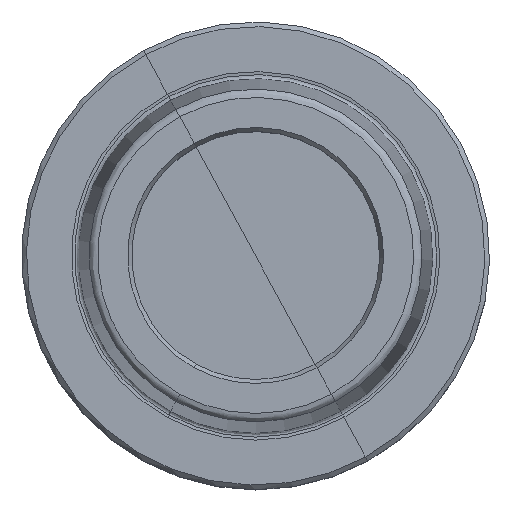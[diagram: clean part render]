
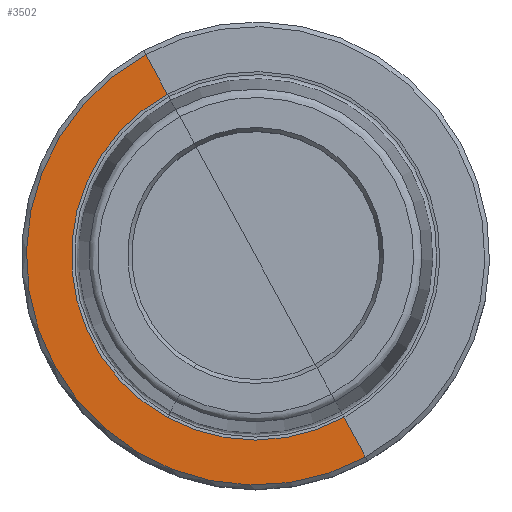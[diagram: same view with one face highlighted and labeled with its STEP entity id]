
A CAD part, top view. The second image highlights one B-rep face of the part: STEP entity #3502.
In plain terms, the highlighted planar face has unit normal (0, 0, 1).
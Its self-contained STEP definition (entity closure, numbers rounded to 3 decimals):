
#572=AXIS2_PLACEMENT_3D('Plane Axis2P3D',#569,#570,#571) ;
#2571=AXIS2_PLACEMENT_3D('Circle Axis2P3D',#2569,#2570,$) ;
#3479=AXIS2_PLACEMENT_3D('Circle Axis2P3D',#3477,#3478,$) ;
#3492=AXIS2_PLACEMENT_3D('Circle Axis2P3D',#3490,#3491,$) ;
#544=CARTESIAN_POINT('Vertex',(18.88,-34.56,0.)) ;
#551=CARTESIAN_POINT('Vertex',(-18.88,34.56,0.)) ;
#569=CARTESIAN_POINT('Axis2P3D Location',(0.,-38.285,0.)) ;
#574=CARTESIAN_POINT('Line Origine',(21.186,-38.781,0.)) ;
#578=CARTESIAN_POINT('Vertex',(23.492,-43.002,0.)) ;
#585=CARTESIAN_POINT('Vertex',(-23.492,43.002,0.)) ;
#588=CARTESIAN_POINT('Line Origine',(-21.186,38.781,0.)) ;
#2566=CARTESIAN_POINT('Vertex',(-18.88,-34.56,0.)) ;
#2569=CARTESIAN_POINT('Axis2P3D Location',(0.,0.,0.)) ;
#3477=CARTESIAN_POINT('Axis2P3D Location',(0.,0.,0.)) ;
#3490=CARTESIAN_POINT('Axis2P3D Location',(0.,0.,0.)) ;
#570=DIRECTION('Axis2P3D Direction',(0.,0.,-1.)) ;
#571=DIRECTION('Axis2P3D XDirection',(-1.,0.,0.)) ;
#575=DIRECTION('Vector Direction',(-0.479,0.878,0.)) ;
#589=DIRECTION('Vector Direction',(0.479,-0.878,0.)) ;
#2570=DIRECTION('Axis2P3D Direction',(0.,0.,1.)) ;
#3478=DIRECTION('Axis2P3D Direction',(0.,0.,1.)) ;
#3491=DIRECTION('Axis2P3D Direction',(0.,0.,-1.)) ;
#576=VECTOR('Line Direction',#575,1.) ;
#590=VECTOR('Line Direction',#589,1.) ;
#3496=ORIENTED_EDGE('',*,*,#3481,.T.) ;
#3497=ORIENTED_EDGE('',*,*,#580,.F.) ;
#3498=ORIENTED_EDGE('',*,*,#3494,.F.) ;
#3499=ORIENTED_EDGE('',*,*,#2573,.F.) ;
#3500=ORIENTED_EDGE('',*,*,#592,.T.) ;
#3502=ADVANCED_FACE('NOCUT',(#3501),#573,.F.) ;
#2572=CIRCLE('generated circle',#2571,39.381) ;
#3480=CIRCLE('generated circle',#3479,49.) ;
#3493=CIRCLE('generated circle',#3492,39.381) ;
#580=EDGE_CURVE('',#545,#579,#577,.F.) ;
#592=EDGE_CURVE('',#552,#586,#591,.F.) ;
#2573=EDGE_CURVE('',#552,#2567,#2572,.T.) ;
#3481=EDGE_CURVE('',#586,#579,#3480,.T.) ;
#3494=EDGE_CURVE('',#2567,#545,#3493,.F.) ;
#3495=EDGE_LOOP('',(#3496,#3497,#3498,#3499,#3500)) ;
#3501=FACE_OUTER_BOUND('',#3495,.T.) ;
#577=LINE('Line',#574,#576) ;
#591=LINE('Line',#588,#590) ;
#573=PLANE('',#572) ;
#545=VERTEX_POINT('',#544) ;
#552=VERTEX_POINT('',#551) ;
#579=VERTEX_POINT('',#578) ;
#586=VERTEX_POINT('',#585) ;
#2567=VERTEX_POINT('',#2566) ;
